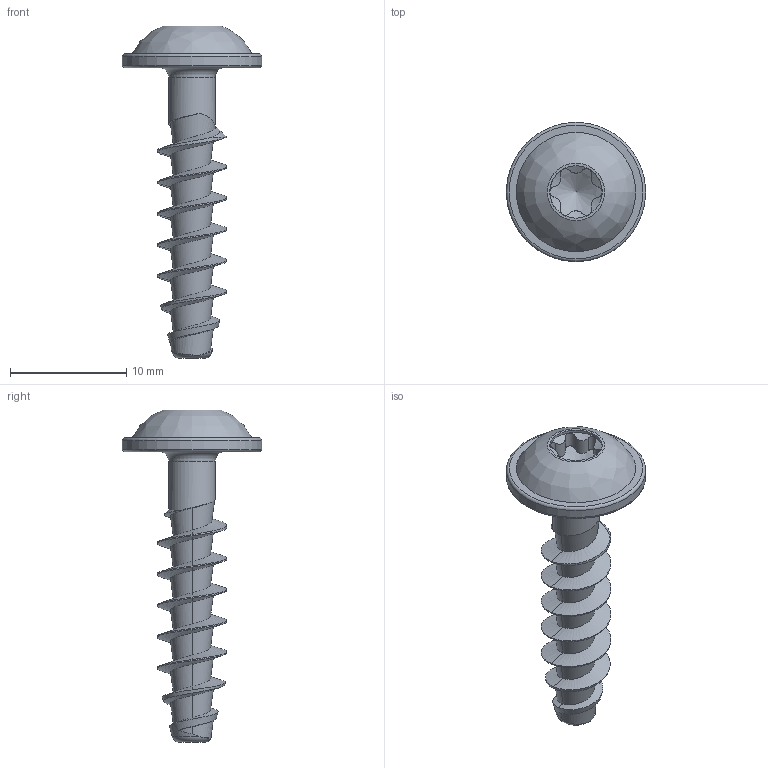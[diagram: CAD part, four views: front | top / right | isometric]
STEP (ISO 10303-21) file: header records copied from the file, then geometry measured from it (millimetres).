
FILE_DESCRIPTION(/* description */ (''),/* implementation_level */ '2;1');
FILE_NAME(/* name */ 'KN1038-STS-60x25-T25.step',/* time_stamp */ '2017-10-12T15:45:31+02:00',/* author */ (''),/* organization */ (''),/* preprocessor_version */ 'ST-DEVELOPER v16',/* originating_system */ 'SIEMENS PLM Software NX 10.0',/* authorisation */ '');
FILE_SCHEMA (('AUTOMOTIVE_DESIGN { 1 0 10303 214 3 1 1 1 }'));
Length unit declared in the file: millimetre
Products named in the file (1): KN1038-STS-60x25-T25
Bounding box: 12 x 12 x 28.6 mm (x, y, z)
Volume: 546.5 mm3; surface area: 791 mm2
Topology: 1 solids, 1 shells, 55 faces, 136 edges, 85 vertices
Faces by surface type: bspline 27, cylinder 16, cone 4, torus 4, plane 4
Full cylindrical faces by diameter (mm): 4.03 x1, 4.52 x1, 12 x1
Entity records: 3588 total; most frequent: CARTESIAN_POINT 2558, ORIENTED_EDGE 238, DIRECTION 123, EDGE_CURVE 119, VERTEX_POINT 79, B_SPLINE_CURVE_WITH_KNOTS 69, EDGE_LOOP 67, ADVANCED_FACE 55
